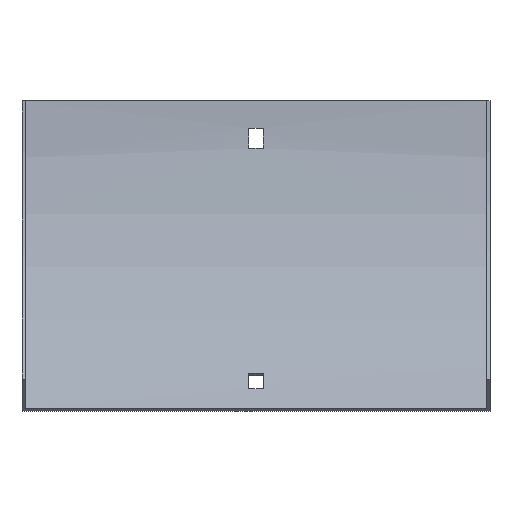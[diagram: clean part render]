
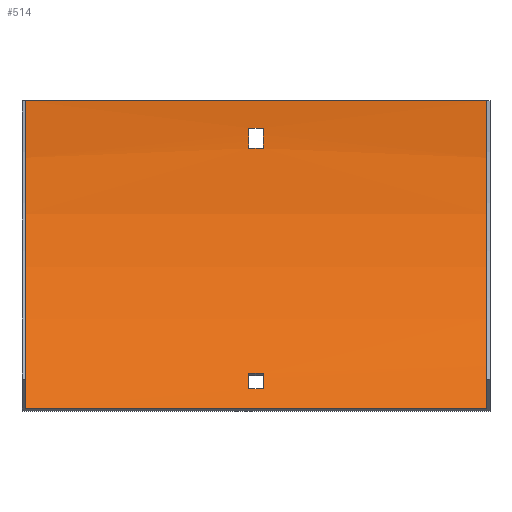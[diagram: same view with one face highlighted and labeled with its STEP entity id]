
A CAD part, front view. The second image highlights one B-rep face of the part: STEP entity #514.
In plain terms, the highlighted cylindrical face has radius 192.5 mm (diameter 385 mm), a partial arc.
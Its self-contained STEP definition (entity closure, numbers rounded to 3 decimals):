
#1 = ORIENTED_EDGE ( 'NONE', *, *, #19, .T. ) ;
#3 = AXIS2_PLACEMENT_3D ( 'NONE', #243, #558, #46 ) ;
#7 = EDGE_CURVE ( 'NONE', #250, #510, #348, .T. ) ;
#8 = DIRECTION ( 'NONE',  ( -1., 0., 0. ) ) ;
#12 = VECTOR ( 'NONE', #590, 1000. ) ;
#17 = ORIENTED_EDGE ( 'NONE', *, *, #259, .F. ) ;
#19 = EDGE_CURVE ( 'NONE', #560, #250, #420, .T. ) ;
#20 = CARTESIAN_POINT ( 'NONE',  ( -3.25, -194., 0. ) ) ;
#23 = DIRECTION ( 'NONE',  ( -1., 0., 0. ) ) ;
#33 = CARTESIAN_POINT ( 'NONE',  ( 3.25, -49.661, -127.368 ) ) ;
#40 = VECTOR ( 'NONE', #537, 1000. ) ;
#46 = DIRECTION ( 'NONE',  ( 0., 0., 1. ) ) ;
#53 = EDGE_CURVE ( 'NONE', #497, #547, #75, .T. ) ;
#54 = VECTOR ( 'NONE', #333, 1000. ) ;
#64 = EDGE_CURVE ( 'NONE', #510, #432, #355, .T. ) ;
#65 = ORIENTED_EDGE ( 'NONE', *, *, #349, .F. ) ;
#71 = FACE_OUTER_BOUND ( 'NONE', #107, .T. ) ;
#75 = LINE ( 'NONE', #122, #12 ) ;
#81 = FACE_BOUND ( 'NONE', #195, .T. ) ;
#95 = DIRECTION ( 'NONE',  ( 1., 0., 0. ) ) ;
#100 = ORIENTED_EDGE ( 'NONE', *, *, #382, .T. ) ;
#105 = DIRECTION ( 'NONE',  ( 0., 0., 1. ) ) ;
#107 = EDGE_LOOP ( 'NONE', ( #140, #17, #434, #489 ) ) ;
#110 = LINE ( 'NONE', #297, #120 ) ;
#112 = VERTEX_POINT ( 'NONE', #413 ) ;
#114 = VERTEX_POINT ( 'NONE', #182 ) ;
#116 = FACE_BOUND ( 'NONE', #345, .T. ) ;
#118 = DIRECTION ( 'NONE',  ( 0., 0., -1. ) ) ;
#119 = CARTESIAN_POINT ( 'NONE',  ( 3.25, -43.845, -120.456 ) ) ;
#120 = VECTOR ( 'NONE', #572, 1000. ) ;
#122 = CARTESIAN_POINT ( 'NONE',  ( 103.5, -1.874, -12. ) ) ;
#124 = VECTOR ( 'NONE', #23, 1000. ) ;
#140 = ORIENTED_EDGE ( 'NONE', *, *, #246, .F. ) ;
#158 = CARTESIAN_POINT ( 'NONE',  ( 102., -57.882, -136.118 ) ) ;
#161 = AXIS2_PLACEMENT_3D ( 'NONE', #453, #163, #298 ) ;
#163 = DIRECTION ( 'NONE',  ( 1., 0., 0. ) ) ;
#175 = CARTESIAN_POINT ( 'NONE',  ( 103.5, -49.661, -127.368 ) ) ;
#179 = CARTESIAN_POINT ( 'NONE',  ( 103.5, -194., 0. ) ) ;
#182 = CARTESIAN_POINT ( 'NONE',  ( -3.25, -2.649, -21. ) ) ;
#188 = ORIENTED_EDGE ( 'NONE', *, *, #53, .F. ) ;
#189 = CARTESIAN_POINT ( 'NONE',  ( 102., -194., 0. ) ) ;
#193 = DIRECTION ( 'NONE',  ( 0., 0., 1. ) ) ;
#194 = CIRCLE ( 'NONE', #209, 192.5 ) ;
#195 = EDGE_LOOP ( 'NONE', ( #100, #1, #400, #392 ) ) ;
#202 = ORIENTED_EDGE ( 'NONE', *, *, #370, .F. ) ;
#207 = ORIENTED_EDGE ( 'NONE', *, *, #389, .F. ) ;
#208 = AXIS2_PLACEMENT_3D ( 'NONE', #20, #217, #118 ) ;
#209 = AXIS2_PLACEMENT_3D ( 'NONE', #429, #8, #105 ) ;
#216 = CIRCLE ( 'NONE', #3, 192.5 ) ;
#217 = DIRECTION ( 'NONE',  ( 1., 0., 0. ) ) ;
#227 = CARTESIAN_POINT ( 'NONE',  ( 3.25, -1.874, -12. ) ) ;
#231 = DIRECTION ( 'NONE',  ( 0., 0., 1. ) ) ;
#238 = AXIS2_PLACEMENT_3D ( 'NONE', #189, #95, #193 ) ;
#243 = CARTESIAN_POINT ( 'NONE',  ( -102., -194., 0. ) ) ;
#246 = EDGE_CURVE ( 'NONE', #569, #112, #216, .T. ) ;
#250 = VERTEX_POINT ( 'NONE', #423 ) ;
#259 = EDGE_CURVE ( 'NONE', #332, #569, #463, .T. ) ;
#261 = LINE ( 'NONE', #446, #124 ) ;
#262 = VECTOR ( 'NONE', #443, 1000. ) ;
#266 = DIRECTION ( 'NONE',  ( -1., 0., 0. ) ) ;
#268 = CARTESIAN_POINT ( 'NONE',  ( 3.25, -194., 0. ) ) ;
#269 = DIRECTION ( 'NONE',  ( 0., 0., 1. ) ) ;
#270 = CIRCLE ( 'NONE', #161, 192.5 ) ;
#275 = CARTESIAN_POINT ( 'NONE',  ( -102., -57.882, -136.118 ) ) ;
#281 = CARTESIAN_POINT ( 'NONE',  ( 3.25, -2.649, -21. ) ) ;
#297 = CARTESIAN_POINT ( 'NONE',  ( 103.5, -2.649, -21. ) ) ;
#298 = DIRECTION ( 'NONE',  ( 0., 0., -1. ) ) ;
#308 = AXIS2_PLACEMENT_3D ( 'NONE', #268, #313, #231 ) ;
#313 = DIRECTION ( 'NONE',  ( -1., 0., 0. ) ) ;
#332 = VERTEX_POINT ( 'NONE', #158 ) ;
#333 = DIRECTION ( 'NONE',  ( -1., 0., 0. ) ) ;
#334 = AXIS2_PLACEMENT_3D ( 'NONE', #179, #266, #269 ) ;
#345 = EDGE_LOOP ( 'NONE', ( #65, #188, #207, #202 ) ) ;
#348 = LINE ( 'NONE', #526, #262 ) ;
#349 = EDGE_CURVE ( 'NONE', #547, #114, #194, .T. ) ;
#355 = CIRCLE ( 'NONE', #308, 192.5 ) ;
#369 = CARTESIAN_POINT ( 'NONE',  ( -3.25, -49.661, -127.368 ) ) ;
#370 = EDGE_CURVE ( 'NONE', #114, #404, #110, .T. ) ;
#378 = CARTESIAN_POINT ( 'NONE',  ( 102., -57.882, -136.118 ) ) ;
#382 = EDGE_CURVE ( 'NONE', #432, #560, #585, .T. ) ;
#389 = EDGE_CURVE ( 'NONE', #404, #497, #270, .T. ) ;
#392 = ORIENTED_EDGE ( 'NONE', *, *, #64, .T. ) ;
#400 = ORIENTED_EDGE ( 'NONE', *, *, #7, .T. ) ;
#404 = VERTEX_POINT ( 'NONE', #281 ) ;
#413 = CARTESIAN_POINT ( 'NONE',  ( -102., -1.5, 0. ) ) ;
#420 = CIRCLE ( 'NONE', #208, 192.5 ) ;
#423 = CARTESIAN_POINT ( 'NONE',  ( -3.25, -43.845, -120.456 ) ) ;
#429 = CARTESIAN_POINT ( 'NONE',  ( -3.25, -194., 0. ) ) ;
#431 = CIRCLE ( 'NONE', #238, 192.5 ) ;
#432 = VERTEX_POINT ( 'NONE', #33 ) ;
#434 = ORIENTED_EDGE ( 'NONE', *, *, #574, .T. ) ;
#443 = DIRECTION ( 'NONE',  ( 1., 0., 0. ) ) ;
#446 = CARTESIAN_POINT ( 'NONE',  ( 102., -1.5, 0. ) ) ;
#453 = CARTESIAN_POINT ( 'NONE',  ( 3.25, -194., 0. ) ) ;
#463 = LINE ( 'NONE', #378, #54 ) ;
#489 = ORIENTED_EDGE ( 'NONE', *, *, #522, .T. ) ;
#491 = CYLINDRICAL_SURFACE ( 'NONE', #334, 192.5 ) ;
#497 = VERTEX_POINT ( 'NONE', #227 ) ;
#501 = CARTESIAN_POINT ( 'NONE',  ( 102., -1.5, 0. ) ) ;
#510 = VERTEX_POINT ( 'NONE', #119 ) ;
#514 = ADVANCED_FACE ( 'NONE', ( #116, #71, #81 ), #491, .F. ) ;
#522 = EDGE_CURVE ( 'NONE', #543, #112, #261, .T. ) ;
#526 = CARTESIAN_POINT ( 'NONE',  ( 103.5, -43.845, -120.456 ) ) ;
#527 = CARTESIAN_POINT ( 'NONE',  ( -3.25, -1.874, -12. ) ) ;
#537 = DIRECTION ( 'NONE',  ( -1., 0., 0. ) ) ;
#543 = VERTEX_POINT ( 'NONE', #501 ) ;
#547 = VERTEX_POINT ( 'NONE', #527 ) ;
#558 = DIRECTION ( 'NONE',  ( 1., 0., 0. ) ) ;
#560 = VERTEX_POINT ( 'NONE', #369 ) ;
#569 = VERTEX_POINT ( 'NONE', #275 ) ;
#572 = DIRECTION ( 'NONE',  ( 1., 0., 0. ) ) ;
#574 = EDGE_CURVE ( 'NONE', #332, #543, #431, .T. ) ;
#585 = LINE ( 'NONE', #175, #40 ) ;
#590 = DIRECTION ( 'NONE',  ( -1., 0., 0. ) ) ;
